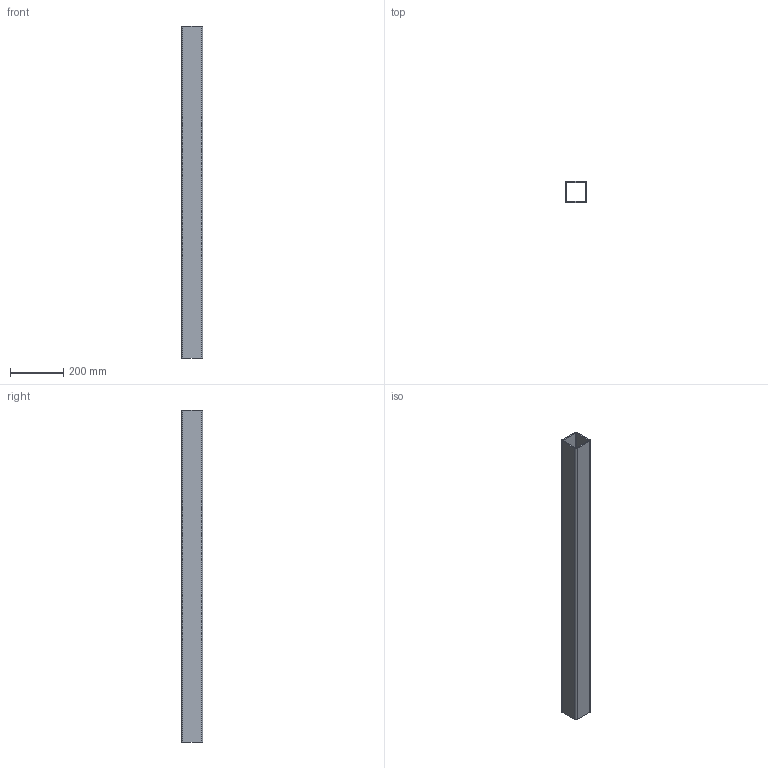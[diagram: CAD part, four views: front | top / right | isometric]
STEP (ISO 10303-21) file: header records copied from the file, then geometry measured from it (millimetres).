
FILE_DESCRIPTION((''),'2;1');
FILE_NAME('9527118000_ASM','2024-09-09T14:09:23',('Stephanie.Hoppe'),(''),'CREO PARAMETRIC BY PTC INC, 2022124','CREO PARAMETRIC BY PTC INC, 2022124','');
FILE_SCHEMA(('AUTOMOTIVE_DESIGN { 1 0 10303 214 1 1 1 1 }'));
Length unit declared in the file: millimetre
Products named in the file (2): 9207003000_AF2; 9527118000_ASM
Assembly tree (1 placements, depth 2):
  9527118000_ASM
    9207003000_AF2
Bounding box: 80 x 80 x 1250 mm (x, y, z)
Volume: 1837444.7 mm3; surface area: 737917.8 mm2
Topology: 1 solids, 1 shells, 18 faces, 56 edges, 48 vertices
Faces by surface type: plane 10, cylinder 8
Entity records: 2004 total; most frequent: DIRECTION 172, CARTESIAN_POINT 150, COLOUR_RGB 144, PROPERTY_DEFINITION 112, REPRESENTATION 111, PROPERTY_DEFINITION_REPRESENTATION 111, DESCRIPTIVE_REPRESENTATION_ITEM 99, GENERAL_PROPERTY 97
